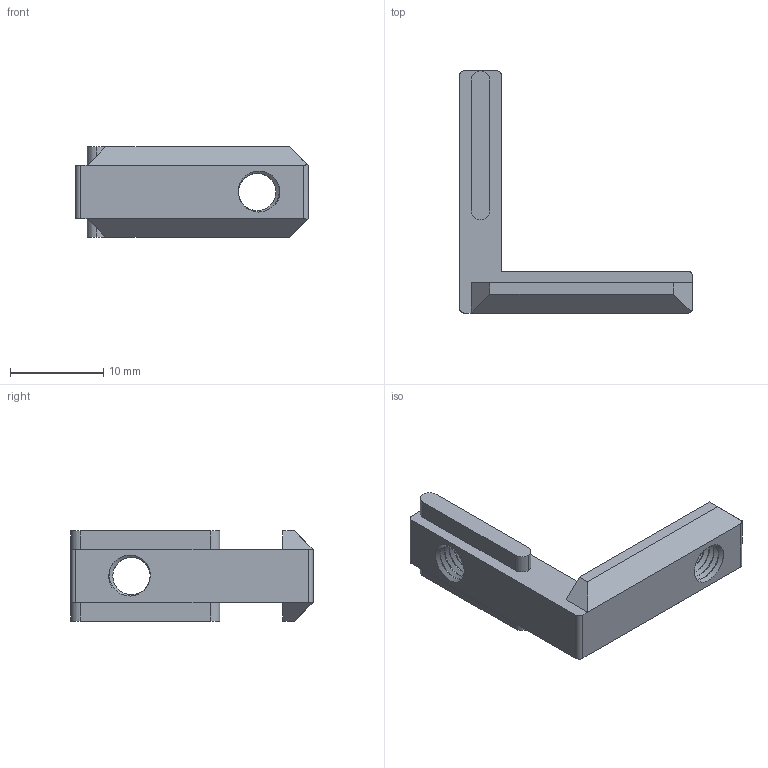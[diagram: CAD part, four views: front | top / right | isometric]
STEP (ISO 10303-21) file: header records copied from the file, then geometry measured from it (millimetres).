
FILE_DESCRIPTION (( 'STEP AP203' ), '1' );
FILE_NAME ('78-CE-IEZ2020-6.STEP', '2015-07-09T08:27:43', ( '' ), ( '' ), 'SwSTEP 2.0', 'SolidWorks 2013', '' );
FILE_SCHEMA (( 'CONFIG_CONTROL_DESIGN' ));
Length unit declared in the file: millimetre
Products named in the file (1): 78-CE-IEZ2020-6
Bounding box: 25 x 26 x 9.7 mm (x, y, z)
Volume: 1378 mm3; surface area: 1400.6 mm2
Topology: 1 solids, 1 shells, 69 faces, 193 edges, 126 vertices
Faces by surface type: cylinder 41, plane 24, bspline 4
Entity records: 3628 total; most frequent: CARTESIAN_POINT 1959, ORIENTED_EDGE 386, DIRECTION 283, EDGE_CURVE 193, VERTEX_POINT 126, VECTOR 95, LINE 95, AXIS2_PLACEMENT_3D 94
